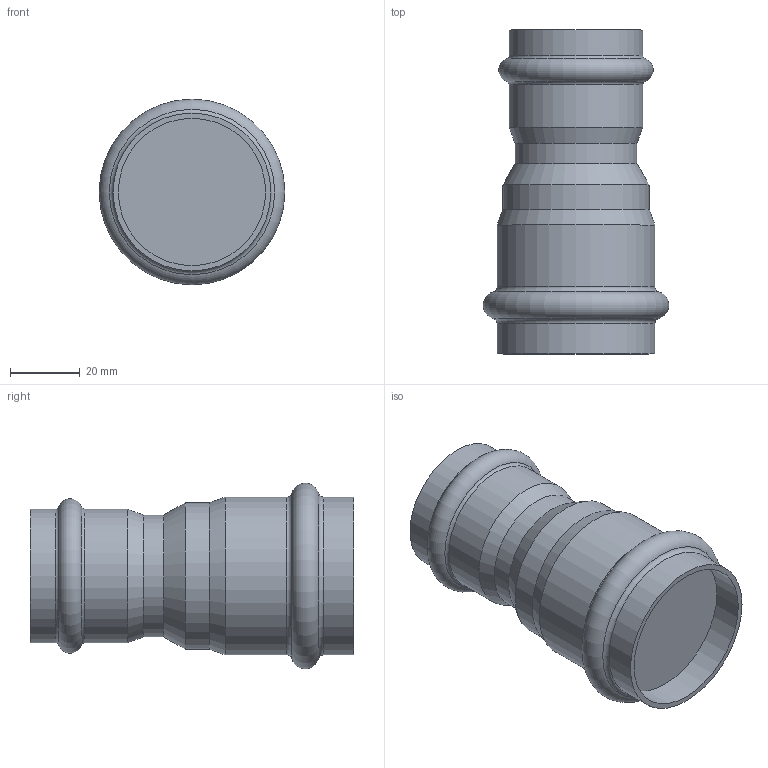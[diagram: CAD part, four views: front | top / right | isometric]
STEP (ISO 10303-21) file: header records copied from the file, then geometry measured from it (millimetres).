
FILE_DESCRIPTION(('STEP AP203'), '1');
FILE_NAME('VTi.903.I.004235', '', ('UNSPECIFIED'), ('UNSPECIFIED'), 'C3D Converter', 'C3D Toolkit', '');
FILE_SCHEMA(('CONFIG_CONTROL_DESIGN'));
Length unit declared in the file: millimetre
Bounding box: 53.3 x 93 x 53.3 mm (x, y, z)
Volume: 112511.5 mm3; surface area: 18149.7 mm2
Topology: 1 solids, 1 shells, 21 faces, 37 edges, 20 vertices
Faces by surface type: cylinder 8, torus 6, plane 4, cone 3
Full cylindrical faces by diameter (mm): 35 x1, 35.3 x1, 38.3 x2, 42 x1, 42.3 x1, 45.3 x2
Entity records: 454 total; most frequent: DIRECTION 84, CARTESIAN_POINT 62, AXIS2_PLACEMENT_3D 42, EDGE_LOOP 40, ORIENTED_EDGE 40, FACE_OUTER_BOUND 34, ADVANCED_FACE 21, EDGE_CURVE 20
